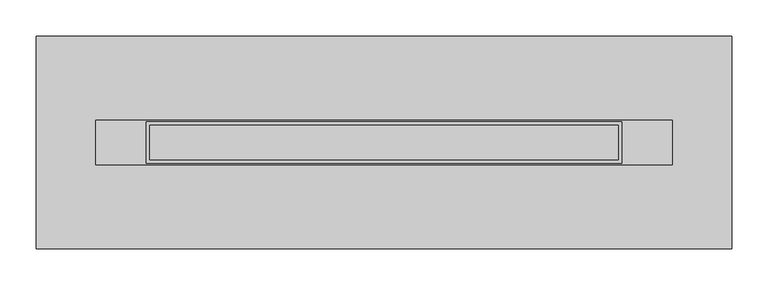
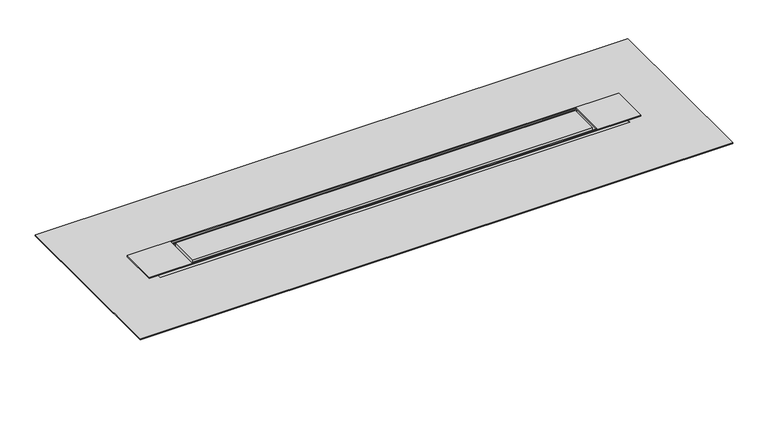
"""IFC4 building model written with IfcOpenShell, lengths in millimetres: sanitary terminal geometry, NLRS_PF_52_UN_Compact TAF Modulo Design_Easydrain : Compact TAF Modulo Design Z2."""

from ifc_helpers import new_model, si_unit, frame, origin, place, context, project, spatial, polyline, circle_curve, ellipse_curve, outline, extrude, source, transform, mapped, element, save
from ifc_brep_helpers import plane_surface, cylinder_surface, advanced_brep


def sanitary_terminal_50c217ad(model_context):
    return source(origin(), model_context, "Body", "SolidModel", [
        extrude(outline(polyline([(-175.0, -24.0), (-175.0, 24.0), (475.0, 24.0), (475.0, -24.0), (-175.0, -24.0)])), frame((0.0, 0.0, -7.0), z_axis=(0.0, 0.0, 1.0), x_axis=(1.0, 0.0, 0.0)), (0.0, 0.0, 1.0), 7.0),
        extrude(outline(polyline([(550.0, 31.0), (550.0, -31.0), (-250.0, -31.0), (-250.0, 31.0), (550.0, 31.0)]), holes=[polyline([(480.0, 29.0), (-180.0, 29.0), (-180.0, -29.0), (480.0, -29.0), (480.0, 29.0)])]), frame((0.0, 0.0, -2.0), z_axis=(0.0, 0.0, 1.0), x_axis=(1.0, 0.0, 0.0)), (0.0, 0.0, 1.0), 2.0),
        extrude(outline(polyline([(632.5, 147.5), (632.5, -147.5), (-332.5, -147.5), (-332.5, 147.5), (632.5, 147.5)]), holes=[polyline([(532.5, 31.0), (-232.5, 31.0), (-232.5, -31.0), (532.5, -31.0), (532.5, 31.0)])]), frame((0.0, 0.0, -8.0), z_axis=(0.0, 0.0, 1.0), x_axis=(1.0, 0.0, 0.0)), (0.0, 0.0, 1.0), 2.0),
        advanced_brep(
        [(-232.5, -31.0, -25.0), (40.0, -31.0, -27.0), (40.0, -31.0, -90.0), (260.0, -31.0, -90.0), (260.0, -31.0, -27.0), (532.5, -31.0, -25.0), (532.5, -31.0, -9.0), (-232.5, -31.0, -9.0), (150.0, -31.0, -30.0), (150.0, -31.0, -80.0), (532.5, 31.0, -25.0), (260.0, 31.0, -27.0), (260.0, 31.0, -90.0), (40.0, 31.0, -90.0), (40.0, 31.0, -27.0), (-232.5, 31.0, -25.0), (-232.5, 31.0, -9.0), (532.5, 31.0, -9.0), (-212.5, 0.0, -25.146789), (-172.5, 0.0, -25.440367), (532.5, 30.0, -9.0), (532.5, -30.0, -9.0), (550.0, 47.5, -7.0), (-250.0, 47.5, -7.0), (-250.0, -64.5, -7.0), (550.0, -64.5, -7.0), (-232.5, -30.0, -9.0), (-232.5, 30.0, -9.0), (472.5, 0.0, -25.440367), (512.5, 0.0, -25.146789), (150.0, -50.0, -30.0), (150.0, -50.0, -80.0), (550.0, 47.5, -9.0), (550.0, -64.5, -9.0), (-250.0, -64.5, -9.0), (-250.0, 47.5, -9.0), (-212.5, 0.0, -90.0), (-172.5, 0.0, -90.0), (472.5, 0.0, -90.0), (512.5, 0.0, -90.0)],
        [
            (0, 1),
            (1, 2),
            (2, 3),
            (3, 4),
            (4, 5),
            (5, 6),
            (6, 7),
            (7, 0),
            (8, 9, circle_curve(frame((150.0, -31.0, -55.0), z_axis=(0.0, 1.0, 0.0), x_axis=(0.0, 0.0, -1.0)), 25.0)),
            (9, 8, circle_curve(frame((150.0, -31.0, -55.0), z_axis=(0.0, 1.0, 0.0), x_axis=(0.0, 0.0, -1.0)), 25.0)),
            (10, 11),
            (11, 12),
            (12, 13),
            (13, 14),
            (14, 15),
            (15, 16),
            (16, 17),
            (17, 10),
            (0, 15),
            (14, 1),
            (18, 19, ellipse_curve(frame((-192.5, 0.0, -25.293578), z_axis=(0.007339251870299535, 0.0, 0.9999730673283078), x_axis=(-0.9999730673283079, 0.0, 0.007339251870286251)), 20.0005387, 20.0)),
            (19, 18, ellipse_curve(frame((-192.5, 0.0, -25.293578), z_axis=(0.007339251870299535, 0.0, 0.9999730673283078), x_axis=(-0.9999730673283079, 0.0, 0.007339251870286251)), 20.0005387, 20.0)),
            (5, 10),
            (17, 20),
            (20, 21),
            (21, 6),
            (22, 23),
            (23, 24),
            (24, 25),
            (25, 22),
            (7, 26),
            (26, 27),
            (27, 16),
            (13, 2),
            (12, 3),
            (11, 4),
            (28, 29, ellipse_curve(frame((492.5, 0.0, -25.293578), z_axis=(-0.00733925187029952, 0.0, 0.9999730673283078), x_axis=(0.9999730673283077, 0.0, 0.007339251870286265)), 20.0005387, 20.0)),
            (29, 28, ellipse_curve(frame((492.5, 0.0, -25.293578), z_axis=(-0.00733925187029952, 0.0, 0.9999730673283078), x_axis=(0.9999730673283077, 0.0, 0.007339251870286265)), 20.0005387, 20.0)),
            (30, 31, circle_curve(frame((150.0, -50.0, -55.0), z_axis=(0.0, -1.0, 0.0), x_axis=(0.0, 0.0, -1.0)), 25.0)),
            (31, 30, circle_curve(frame((150.0, -50.0, -55.0), z_axis=(0.0, -1.0, 0.0), x_axis=(0.0, 0.0, -1.0)), 25.0)),
            (31, 9),
            (8, 30),
            (32, 33),
            (33, 34),
            (34, 35),
            (35, 32),
            (22, 32),
            (35, 23),
            (34, 24),
            (33, 25),
            (36, 37, circle_curve(frame((-192.5, 0.0, -90.0), z_axis=(0.0, 0.0, -1.0), x_axis=(1.0, 0.0, 0.0)), 20.0)),
            (37, 36, circle_curve(frame((-192.5, 0.0, -90.0), z_axis=(0.0, 0.0, -1.0), x_axis=(1.0, 0.0, 0.0)), 20.0)),
            (38, 39, circle_curve(frame((492.5, 0.0, -90.0), z_axis=(0.0, 0.0, -1.0), x_axis=(1.0, 0.0, 0.0)), 20.0)),
            (39, 38, circle_curve(frame((492.5, 0.0, -90.0), z_axis=(0.0, 0.0, -1.0), x_axis=(1.0, 0.0, 0.0)), 20.0)),
            (37, 19),
            (18, 36),
            (39, 29),
            (28, 38),
        ],
        [
            plane_surface(frame((-232.5, -31.0, -25.0), z_axis=(0.0, -1.0, 0.0), x_axis=(0.9999730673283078, 0.0, -0.007339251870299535))),
            plane_surface(frame((-232.5, 31.0, -25.0), z_axis=(0.0, 1.0, 0.0), x_axis=(-0.9999730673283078, 0.0, 0.007339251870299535))),
            plane_surface(frame((-232.5, -31.0, -25.0), z_axis=(-0.007339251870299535, 0.0, -0.9999730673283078), x_axis=(0.0, 1.0, 0.0))),
            plane_surface(frame((532.5, -31.0, -25.0), z_axis=(1.0, 0.0, 0.0), x_axis=(0.0, 1.0, 0.0))),
            plane_surface(frame((532.5, -31.0, -7.0), z_axis=(0.0, 0.0, 1.0), x_axis=(0.0, 1.0, 0.0))),
            plane_surface(frame((-232.5, -31.0, -7.0), z_axis=(-1.0, 0.0, 0.0), x_axis=(0.0, 1.0, 0.0))),
            plane_surface(frame((40.0, -31.0, -27.0), z_axis=(-1.0, 0.0, 0.0), x_axis=(0.0, 1.0, 0.0))),
            plane_surface(frame((40.0, -31.0, -90.0), z_axis=(0.0, 0.0, -1.0), x_axis=(0.0, 1.0, 0.0))),
            plane_surface(frame((260.0, -31.0, -90.0), z_axis=(1.0, 0.0, 0.0), x_axis=(0.0, 1.0, 0.0))),
            plane_surface(frame((260.0, -31.0, -27.0), z_axis=(0.00733925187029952, 0.0, -0.9999730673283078), x_axis=(0.0, 1.0, 0.0))),
            plane_surface(frame((150.0, -50.0, -55.0), z_axis=(0.0, -1.0, 0.0), x_axis=(1.0, 0.0, 0.0))),
            cylinder_surface(frame((150.0, 0.0, -55.0), z_axis=(0.0, 1.0, 0.0), x_axis=(0.0, 0.0, -1.0)), 25.0),
            plane_surface(frame((532.5, 30.0, -9.0), z_axis=(0.0, 0.0, -1.0), x_axis=(0.0, 1.0, 0.0))),
            plane_surface(frame((550.0, 47.5, -7.0), z_axis=(0.0, 1.0, 0.0), x_axis=(0.0, 0.0, -1.0))),
            plane_surface(frame((-250.0, 47.5, -7.0), z_axis=(-1.0, 0.0, 0.0), x_axis=(0.0, 0.0, -1.0))),
            plane_surface(frame((-250.0, -64.5, -7.0), z_axis=(0.0, -1.0, 0.0), x_axis=(0.0, 0.0, -1.0))),
            plane_surface(frame((550.0, -64.5, -7.0), z_axis=(1.0, 0.0, 0.0), x_axis=(0.0, 0.0, -1.0))),
            plane_surface(frame((-172.5, 0.0, -90.0), z_axis=(0.0, 0.0, -1.0), x_axis=(0.0, -1.0, 0.0))),
            cylinder_surface(frame((-192.5, 0.0, -90.0), z_axis=(0.0, 0.0, 1.0), x_axis=(1.0, 0.0, 0.0)), 20.0),
            cylinder_surface(frame((492.5, 0.0, 0.0), z_axis=(0.0, 0.0, 1.0), x_axis=(1.0, 0.0, 0.0)), 20.0),
        ],
        [
            (0, [[1, 2, 3, 4, 5, 6, 7, 8], [9, 10]]),
            (1, [[11, 12, 13, 14, 15, 16, 17, 18]]),
            (2, [[-1, 19, -15, 20], [21, 22]]),
            (3, [[23, -18, 24, 25, 26, -6]]),
            (4, [[27, 28, 29, 30]]),
            (5, [[-19, -8, 31, 32, 33, -16]]),
            (6, [[-2, -20, -14, 34]]),
            (7, [[-3, -34, -13, 35]]),
            (8, [[-4, -35, -12, 36]]),
            (9, [[-5, -36, -11, -23], [37, 38]]),
            (10, [[39, 40]]),
            (11, [[-40, 41, -9, 42]]),
            (11, [[-39, -42, -10, -41]]),
            (12, [[43, 44, 45, 46], [-7, -26, -25, -24, -17, -33, -32, -31]]),
            (13, [[-27, 47, -46, 48]]),
            (14, [[-28, -48, -45, 49]]),
            (15, [[-29, -49, -44, 50]]),
            (16, [[-30, -50, -43, -47]]),
            (17, [[51, 52]]),
            (17, [[53, 54]]),
            (18, [[-52, 55, -21, 56]]),
            (18, [[-51, -56, -22, -55]]),
            (19, [[-54, 57, -37, 58]]),
            (19, [[-53, -58, -38, -57]]),
        ],
    ),
    ])


if __name__ == "__main__":
    model = new_model("IFC4")
    model_context = context("Model", 3, world=origin())
    ifc_project = project(units=[si_unit("LENGTHUNIT", "METRE", prefix="MILLI")], contexts=[model_context])
    site = spatial("IfcSite", under=ifc_project)
    building = spatial("IfcBuilding", under=site)
    placement = place(None, origin())
    sanitary_terminal_shape = sanitary_terminal_50c217ad(model_context)
    element("IfcSanitaryTerminal", 1, ObjectType="NLRS_PF_52_UN_Compact TAF Modulo Design_Easydrain : Compact TAF Modulo Design Z2", at=placement, inside=building, context=model_context, shape_type="MappedRepresentation", body=[
        mapped(sanitary_terminal_shape, transform((0.0, 0.0, 0.0), x_axis=(1.0, 0.0, 0.0), y_axis=(0.0, 1.0, 0.0), z_axis=(0.0, 0.0, 1.0))),
    ])
    save(model, "model.ifc")
